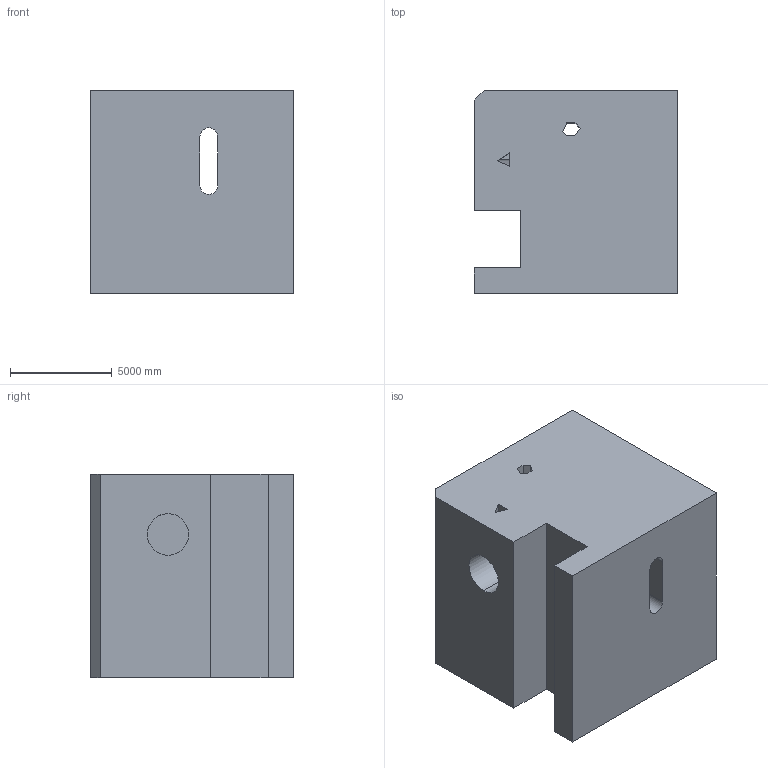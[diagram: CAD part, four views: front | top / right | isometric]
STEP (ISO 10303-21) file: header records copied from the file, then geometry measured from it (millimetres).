
FILE_DESCRIPTION (( 'STEP AP203' ), '1' );
FILE_NAME ('69.STEP', '2022-09-01T11:55:03', ( 'user' ), ( '' ), 'SwSTEP 2.0', 'SolidWorks 2021', '' );
FILE_SCHEMA (( 'CONFIG_CONTROL_DESIGN' ));
Length unit declared in the file: centimetre
Products named in the file (1): 69
Bounding box: 10000 x 10000 x 10000 mm (x, y, z)
Volume: 838292454907.5 mm3; surface area: 820812371.2 mm2
Topology: 1 solids, 1 shells, 34 faces, 93 edges, 62 vertices
Faces by surface type: plane 27, cylinder 7
Entity records: 1167 total; most frequent: CARTESIAN_POINT 208, ORIENTED_EDGE 186, DIRECTION 174, EDGE_CURVE 93, LINE 70, VECTOR 70, VERTEX_POINT 62, AXIS2_PLACEMENT_3D 52
